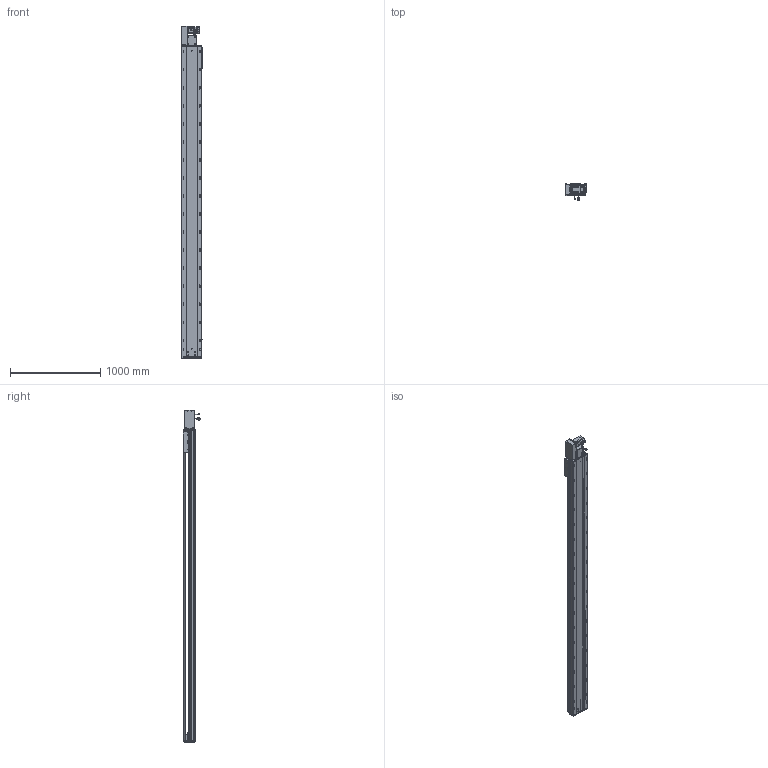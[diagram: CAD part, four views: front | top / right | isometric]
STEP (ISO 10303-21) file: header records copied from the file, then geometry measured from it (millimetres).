
FILE_DESCRIPTION (( 'STEP AP203' ), '1' );
FILE_NAME ('RY220-T-300-LK.SLDASM_3100.step', '2022-07-25T08:16:47', ( '' ), ( '' ), 'SwSTEP 2.0', 'SolidWorks 2016', '' );
FILE_SCHEMA (( 'CONFIG_CONTROL_DESIGN' ));
Length unit declared in the file: millimetre
Products named in the file (14): RY220翋肮祭謫釱; RY220-T-蛌殏萇儂假蚾啣(750W); RY220-T菁釱-300_3100; RY220圉猾敕々湍臏賑輸; RY220翋肮祭謫裔啣; 覜茼ん672; 110A-T-肮祭謫釱傷裔; RY220-T-300-奻裔啣_3100; 怢湛750W_ECMA-CX0807ES; RY220-同步轮副支撑座6304×2; RY220-T-湍謫欶(鍼踢); 滅袉蝶18-15; RY220-T-300-LK.SLDASM_3100; RY220-俋离672覜茼んえ
Assembly tree (18 placements, depth 2):
  RY220-T-300-LK.SLDASM_3100
    RY220-T菁釱-300_3100
    RY220翋肮祭謫釱
    覜茼ん672  x3
    RY220圉猾敕々湍臏賑輸
    RY220-T-300-奻裔啣_3100
    RY220-俋离672覜茼んえ
    滅袉蝶18-15  x3
    RY220翋肮祭謫裔啣  x2
    110A-T-肮祭謫釱傷裔
    怢湛750W_ECMA-CX0807ES
    RY220-T-湍謫欶(鍼踢)
    RY220-T-蛌殏萇儂假蚾啣(750W)
    RY220-同步轮副支撑座6304×2
Bounding box: 239.7 x 198.77 x 3679 mm (x, y, z)
Volume: 25848653.1 mm3; surface area: 8010589.9 mm2
Topology: 19 solids, 19 shells, 3058 faces, 8463 edges, 5292 vertices
Faces by surface type: cylinder 1518, plane 1069, cone 389, bspline 56, sphere 16, torus 10
Entity records: 102035 total; most frequent: CARTESIAN_POINT 28749, ORIENTED_EDGE 15130, DIRECTION 14648, EDGE_CURVE 7565, AXIS2_PLACEMENT_3D 5300, VERTEX_POINT 4916, VECTOR 4048, LINE 4048
